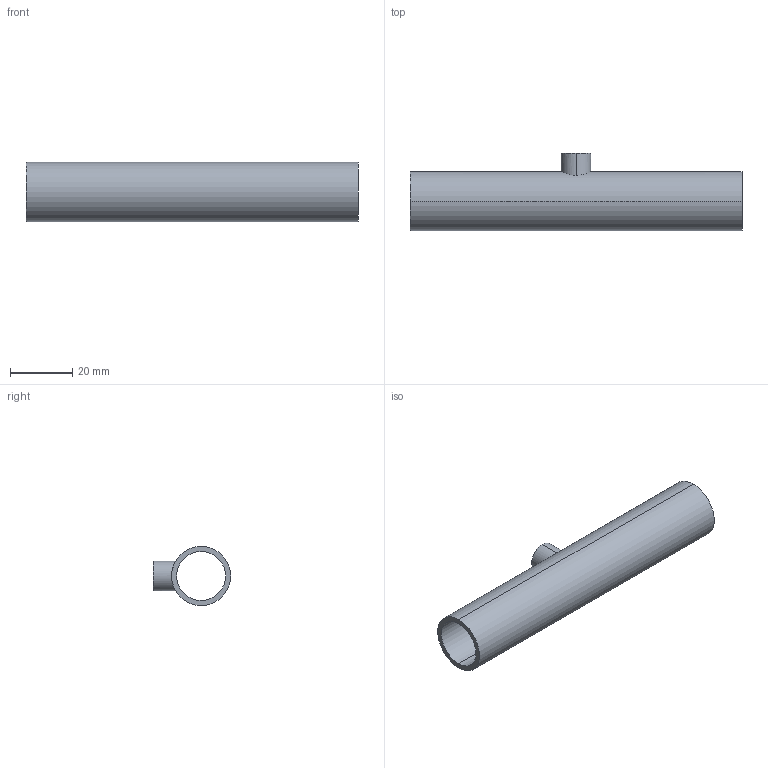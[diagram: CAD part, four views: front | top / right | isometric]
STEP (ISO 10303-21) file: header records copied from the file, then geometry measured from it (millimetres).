
FILE_DESCRIPTION (( 'STEP AP214' ), '1' );
FILE_NAME ('TEG7RS6L.75x.375-...STEP', '2016-05-24T08:00:32', ( 'eran' ), ( '' ), 'SwSTEP 2.0', 'SolidWorks 2016', '' );
FILE_SCHEMA (( 'AUTOMOTIVE_DESIGN' ));
Length unit declared in the file: millimetre
Products named in the file (1): TEG7RS6L.75x.375-..
Bounding box: 107 x 24.93 x 19.05 mm (x, y, z)
Volume: 9725.3 mm3; surface area: 12170.1 mm2
Topology: 1 solids, 1 shells, 11 faces, 24 edges, 16 vertices
Faces by surface type: cylinder 8, plane 3
Entity records: 480 total; most frequent: CARTESIAN_POINT 188, DIRECTION 56, ORIENTED_EDGE 48, EDGE_CURVE 24, AXIS2_PLACEMENT_3D 24, VERTEX_POINT 16, EDGE_LOOP 16, CIRCLE 12
